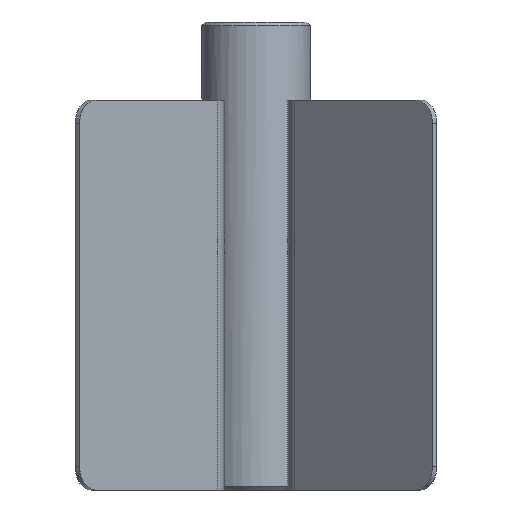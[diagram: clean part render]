
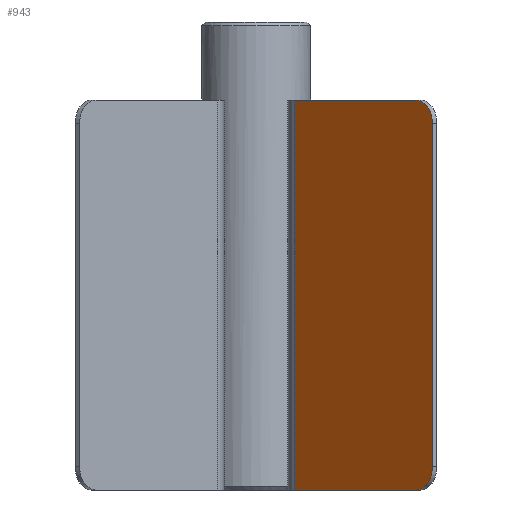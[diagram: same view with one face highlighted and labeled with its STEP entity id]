
A CAD part, left-side view. The second image highlights one B-rep face of the part: STEP entity #943.
In plain terms, the highlighted planar face has unit normal (-0.707, 0.707, 0).
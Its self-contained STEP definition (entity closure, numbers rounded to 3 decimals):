
#28=PLANE('',#1019);
#52=FACE_OUTER_BOUND('',#101,.T.);
#101=EDGE_LOOP('',(#601,#602,#603,#604,#605,#606));
#155=LINE('',#1438,#228);
#158=LINE('',#1444,#231);
#159=LINE('',#1446,#232);
#160=LINE('',#1448,#233);
#228=VECTOR('',#1142,10.);
#231=VECTOR('',#1147,10.);
#232=VECTOR('',#1148,10.);
#233=VECTOR('',#1149,10.);
#299=CIRCLE('',#1016,3.);
#301=CIRCLE('',#1020,3.);
#362=VERTEX_POINT('',#1428);
#363=VERTEX_POINT('',#1429);
#366=VERTEX_POINT('',#1437);
#368=VERTEX_POINT('',#1443);
#369=VERTEX_POINT('',#1445);
#370=VERTEX_POINT('',#1447);
#454=EDGE_CURVE('',#362,#363,#299,.T.);
#458=EDGE_CURVE('',#363,#366,#155,.T.);
#461=EDGE_CURVE('',#362,#368,#158,.T.);
#462=EDGE_CURVE('',#368,#369,#159,.T.);
#463=EDGE_CURVE('',#370,#369,#160,.T.);
#464=EDGE_CURVE('',#366,#370,#301,.T.);
#601=ORIENTED_EDGE('',*,*,#454,.F.);
#602=ORIENTED_EDGE('',*,*,#461,.T.);
#603=ORIENTED_EDGE('',*,*,#462,.T.);
#604=ORIENTED_EDGE('',*,*,#463,.F.);
#605=ORIENTED_EDGE('',*,*,#464,.F.);
#606=ORIENTED_EDGE('',*,*,#458,.F.);
#943=ADVANCED_FACE('',(#52),#28,.T.);
#1016=AXIS2_PLACEMENT_3D('',#1430,#1134,#1135);
#1019=AXIS2_PLACEMENT_3D('',#1442,#1145,#1146);
#1020=AXIS2_PLACEMENT_3D('',#1449,#1150,#1151);
#1134=DIRECTION('center_axis',(0.707,-0.707,0.));
#1135=DIRECTION('ref_axis',(-0.5,-0.5,0.707));
#1142=DIRECTION('',(0.,0.,-1.));
#1145=DIRECTION('center_axis',(-0.707,0.707,0.));
#1146=DIRECTION('ref_axis',(0.707,0.707,0.));
#1147=DIRECTION('',(0.707,0.707,0.));
#1148=DIRECTION('',(0.,0.,-1.));
#1149=DIRECTION('',(0.707,0.707,0.));
#1150=DIRECTION('center_axis',(0.707,-0.707,0.));
#1151=DIRECTION('ref_axis',(-0.5,-0.5,-0.707));
#1428=CARTESIAN_POINT('',(-24.749,-20.506,5.));
#1429=CARTESIAN_POINT('',(-26.87,-22.627,2.));
#1430=CARTESIAN_POINT('Origin',(-24.749,-20.506,2.));
#1437=CARTESIAN_POINT('',(-26.87,-22.627,-42.));
#1438=CARTESIAN_POINT('',(-26.87,-22.627,5.));
#1442=CARTESIAN_POINT('Origin',(-26.87,-22.627,5.));
#1443=CARTESIAN_POINT('',(-9.192,-4.95,5.));
#1444=CARTESIAN_POINT('',(-26.87,-22.627,5.));
#1445=CARTESIAN_POINT('',(-9.192,-4.95,-45.));
#1446=CARTESIAN_POINT('',(-9.192,-4.95,5.));
#1447=CARTESIAN_POINT('',(-24.749,-20.506,-45.));
#1448=CARTESIAN_POINT('',(-26.87,-22.627,-45.));
#1449=CARTESIAN_POINT('Origin',(-24.749,-20.506,-42.));
